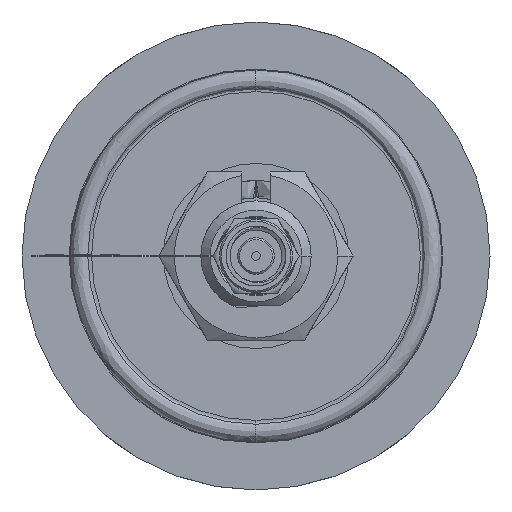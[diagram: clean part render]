
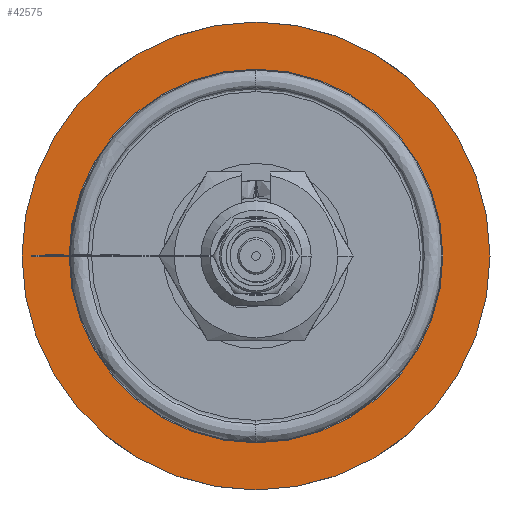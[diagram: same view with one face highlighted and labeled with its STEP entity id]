
A CAD part, front view. The second image highlights one B-rep face of the part: STEP entity #42575.
In plain terms, the highlighted planar face has unit normal (0, -1, 0) as drawn and (0, 0, -1) by its records, which use the part's own axes.
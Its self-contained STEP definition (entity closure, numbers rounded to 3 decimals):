
#2652 = CARTESIAN_POINT ( 'NONE',  ( 50., 41.701, -3. ) ) ;
#2940 = DIRECTION ( 'NONE',  ( 0., 0., 1. ) ) ;
#3201 = DIRECTION ( 'NONE',  ( 0., 0., 1. ) ) ;
#5846 = DIRECTION ( 'NONE',  ( -1., 0., 0. ) ) ;
#6413 = CARTESIAN_POINT ( 'NONE',  ( 50., 41.701, -3. ) ) ;
#6678 = DIRECTION ( 'NONE',  ( 0., 0., 1. ) ) ;
#6862 = ORIENTED_EDGE ( 'NONE', *, *, #19206, .T. ) ;
#7082 = CARTESIAN_POINT ( 'NONE',  ( 50., 41.701, -3. ) ) ;
#7373 = CIRCLE ( 'NONE', #10855, 25.045 ) ;
#9661 = DIRECTION ( 'NONE',  ( -1., 0., 0. ) ) ;
#10855 = AXIS2_PLACEMENT_3D ( 'NONE', #2652, #2940, #5846 ) ;
#11063 = AXIS2_PLACEMENT_3D ( 'NONE', #29642, #3201, #9661 ) ;
#12652 = DIRECTION ( 'NONE',  ( -1., 0., 0. ) ) ;
#12674 = EDGE_LOOP ( 'NONE', ( #6862, #32718 ) ) ;
#12849 = CARTESIAN_POINT ( 'NONE',  ( 50., 41.701, -3. ) ) ;
#14012 = EDGE_CURVE ( 'NONE', #31357, #32521, #7373, .T. ) ;
#16622 = ORIENTED_EDGE ( 'NONE', *, *, #14012, .F. ) ;
#16943 = EDGE_LOOP ( 'NONE', ( #35798, #16622 ) ) ;
#17240 = CARTESIAN_POINT ( 'NONE',  ( 24.955, 41.701, -3. ) ) ;
#19206 = EDGE_CURVE ( 'NONE', #31790, #26809, #40382, .T. ) ;
#21155 = EDGE_CURVE ( 'NONE', #26809, #31790, #40699, .T. ) ;
#21530 = CARTESIAN_POINT ( 'NONE',  ( 75.045, 41.701, -3. ) ) ;
#23950 = AXIS2_PLACEMENT_3D ( 'NONE', #7082, #6678, #30054 ) ;
#24128 = AXIS2_PLACEMENT_3D ( 'NONE', #6413, #40265, #30190 ) ;
#26572 = AXIS2_PLACEMENT_3D ( 'NONE', #12849, #30163, #12652 ) ;
#26705 = PLANE ( 'NONE',  #24128 ) ;
#26721 = EDGE_CURVE ( 'NONE', #32521, #31357, #41035, .T. ) ;
#26809 = VERTEX_POINT ( 'NONE', #38933 ) ;
#29642 = CARTESIAN_POINT ( 'NONE',  ( 50., 41.701, -3. ) ) ;
#30054 = DIRECTION ( 'NONE',  ( -1., 0., 0. ) ) ;
#30163 = DIRECTION ( 'NONE',  ( 0., 0., 1. ) ) ;
#30190 = DIRECTION ( 'NONE',  ( -1., 0., 0. ) ) ;
#31245 = CARTESIAN_POINT ( 'NONE',  ( 30., 41.701, -3. ) ) ;
#31357 = VERTEX_POINT ( 'NONE', #21530 ) ;
#31790 = VERTEX_POINT ( 'NONE', #31245 ) ;
#32521 = VERTEX_POINT ( 'NONE', #17240 ) ;
#32718 = ORIENTED_EDGE ( 'NONE', *, *, #21155, .T. ) ;
#33664 = FACE_BOUND ( 'NONE', #12674, .T. ) ;
#35798 = ORIENTED_EDGE ( 'NONE', *, *, #26721, .F. ) ;
#38933 = CARTESIAN_POINT ( 'NONE',  ( 70., 41.701, -3. ) ) ;
#40265 = DIRECTION ( 'NONE',  ( 0., 0., -1. ) ) ;
#40382 = CIRCLE ( 'NONE', #11063, 20. ) ;
#40699 = CIRCLE ( 'NONE', #23950, 20. ) ;
#41035 = CIRCLE ( 'NONE', #26572, 25.045 ) ;
#41520 = FACE_OUTER_BOUND ( 'NONE', #16943, .T. ) ;
#42575 = ADVANCED_FACE ( 'NONE', ( #33664, #41520 ), #26705, .T. ) ;
